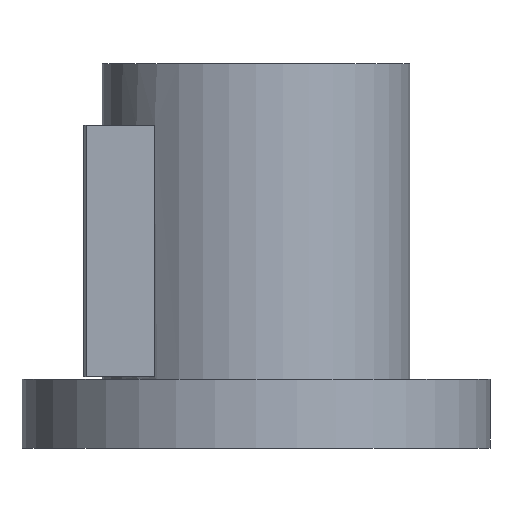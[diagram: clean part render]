
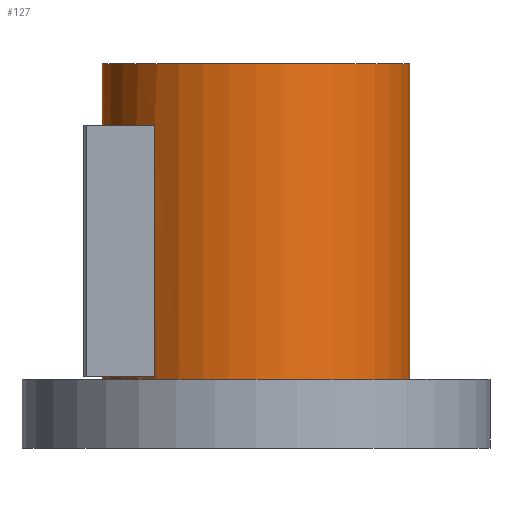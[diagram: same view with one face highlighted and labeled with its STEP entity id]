
A CAD part, front view. The second image highlights one B-rep face of the part: STEP entity #127.
In plain terms, the highlighted cylindrical face has radius 62.5 mm (diameter 125 mm), a full revolution.
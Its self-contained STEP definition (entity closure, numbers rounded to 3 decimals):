
#127=ADVANCED_FACE('',(#200,#201,#202),#155,.T.);
#155=CYLINDRICAL_SURFACE('',#508,62.5);
#168=LINE('',#698,#184);
#169=LINE('',#702,#185);
#184=VECTOR('',#568,1.);
#185=VECTOR('',#571,1.);
#200=FACE_BOUND('',#245,.T.);
#201=FACE_BOUND('',#246,.T.);
#202=FACE_BOUND('',#247,.T.);
#245=EDGE_LOOP('',(#305));
#246=EDGE_LOOP('',(#306));
#247=EDGE_LOOP('',(#307,#308,#309,#310));
#305=ORIENTED_EDGE('',*,*,#431,.F.);
#306=ORIENTED_EDGE('',*,*,#432,.T.);
#307=ORIENTED_EDGE('',*,*,#433,.F.);
#308=ORIENTED_EDGE('',*,*,#434,.F.);
#309=ORIENTED_EDGE('',*,*,#435,.T.);
#310=ORIENTED_EDGE('',*,*,#436,.F.);
#393=VERTEX_POINT('',#692);
#394=VERTEX_POINT('',#694);
#395=VERTEX_POINT('',#696);
#396=VERTEX_POINT('',#697);
#397=VERTEX_POINT('',#699);
#398=VERTEX_POINT('',#701);
#431=EDGE_CURVE('',#393,#393,#475,.T.);
#432=EDGE_CURVE('',#394,#394,#476,.T.);
#433=EDGE_CURVE('',#395,#396,#477,.T.);
#434=EDGE_CURVE('',#397,#395,#168,.T.);
#435=EDGE_CURVE('',#397,#398,#478,.T.);
#436=EDGE_CURVE('',#396,#398,#169,.T.);
#475=CIRCLE('',#504,62.5);
#476=CIRCLE('',#505,62.5);
#477=CIRCLE('',#506,62.5);
#478=CIRCLE('',#507,62.5);
#504=AXIS2_PLACEMENT_3D('',#691,#562,#563);
#505=AXIS2_PLACEMENT_3D('',#693,#564,#565);
#506=AXIS2_PLACEMENT_3D('',#695,#566,#567);
#507=AXIS2_PLACEMENT_3D('',#700,#569,#570);
#508=AXIS2_PLACEMENT_3D('',#703,#572,#573);
#562=DIRECTION('',(0.,0.,1.));
#563=DIRECTION('',(1.,0.,0.));
#564=DIRECTION('',(0.,0.,1.));
#565=DIRECTION('',(1.,0.,0.));
#566=DIRECTION('',(0.,0.,-1.));
#567=DIRECTION('',(-1.,0.,0.));
#568=DIRECTION('',(0.,0.,1.));
#569=DIRECTION('',(0.,0.,-1.));
#570=DIRECTION('',(-1.,0.,0.));
#571=DIRECTION('',(0.,0.,-1.));
#572=DIRECTION('',(0.,0.,-1.));
#573=DIRECTION('',(-1.,0.,0.));
#691=CARTESIAN_POINT('',(0.,0.,156.));
#692=CARTESIAN_POINT('',(62.5,0.,156.));
#693=CARTESIAN_POINT('',(0.,0.,28.));
#694=CARTESIAN_POINT('',(62.5,0.,28.));
#695=CARTESIAN_POINT('',(0.,0.,131.));
#696=CARTESIAN_POINT('',(-41.198,-47.,131.));
#697=CARTESIAN_POINT('',(-41.198,47.,131.));
#698=CARTESIAN_POINT('',(-41.198,-47.,156.));
#699=CARTESIAN_POINT('',(-41.198,-47.,29.));
#700=CARTESIAN_POINT('',(0.,0.,29.));
#701=CARTESIAN_POINT('',(-41.198,47.,29.));
#702=CARTESIAN_POINT('',(-41.198,47.,156.));
#703=CARTESIAN_POINT('',(0.,0.,156.));
